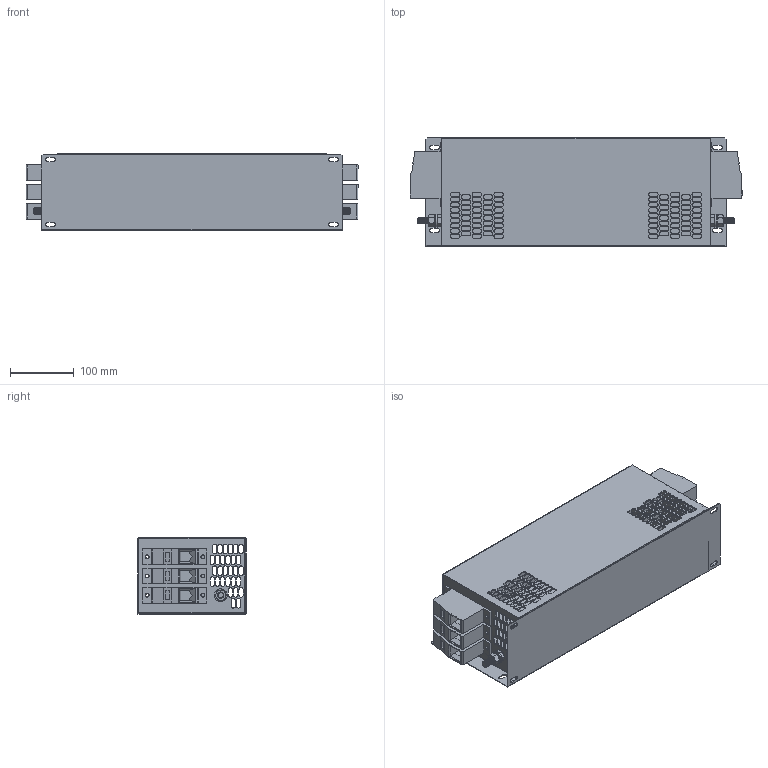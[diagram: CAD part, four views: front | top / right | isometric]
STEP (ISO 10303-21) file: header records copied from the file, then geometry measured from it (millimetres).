
FILE_DESCRIPTION (( 'STEP AP203' ), '1' );
FILE_NAME ('NF-KC-DAR2-150-3 & 180-3.STEP', '2025-09-25T14:33:23', ( '' ), ( '' ), 'SwSTEP 2.0', 'SolidWorks 2017', '' );
FILE_SCHEMA (( 'CONFIG_CONTROL_DESIGN' ));
Length unit declared in the file: millimetre
Products named in the file (7): flat washer narrow_am_B18.22M - Plain washer, 10 mm, narrow; hex screw_am_B18.6.7M - M10 x 1.5 x 30 Indented HHMS --30S; M10x30 Earth post; NF-KC-DAR2-150-3 & 180-3; HDFK-95; hex nut style 1_am_B18.2.4.1M - Hex nut, Style 1,  M10 x 1.5, with 16mm WAF --D-N
Assembly tree (13 placements, depth 3):
  NF-KC-DAR2-150-3 & 180-3
    NF-KC-DAR2-150-3 & 180-3
    HDFK-95  x6
    M10x30 Earth post  x2
      flat washer narrow_am_B18.22M - Plain washer, 10 mm, narrow
      hex nut style 1_am_B18.2.4.1M - Hex nut, Style 1,  M10 x 1.5, with 16mm WAF --D-N
      hex screw_am_B18.6.7M - M10 x 1.5 x 30 Indented HHMS --30S
Bounding box: 520 x 170 x 120 mm (x, y, z)
Volume: 982275.9 mm3; surface area: 799477.1 mm2
Topology: 17 solids, 17 shells, 1645 faces, 4513 edges, 2946 vertices
Faces by surface type: plane 782, cylinder 661, cone 200, sphere 2
Entity records: 36618 total; most frequent: DIRECTION 6345, CARTESIAN_POINT 6296, ORIENTED_EDGE 6046, EDGE_CURVE 3023, AXIS2_PLACEMENT_3D 2285, VERTEX_POINT 1988, VECTOR 1775, LINE 1775
